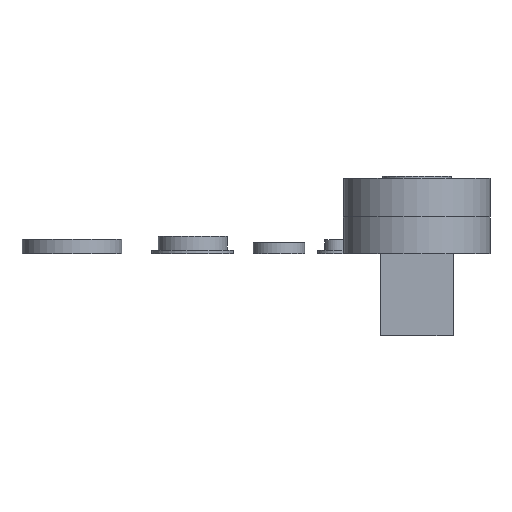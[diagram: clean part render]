
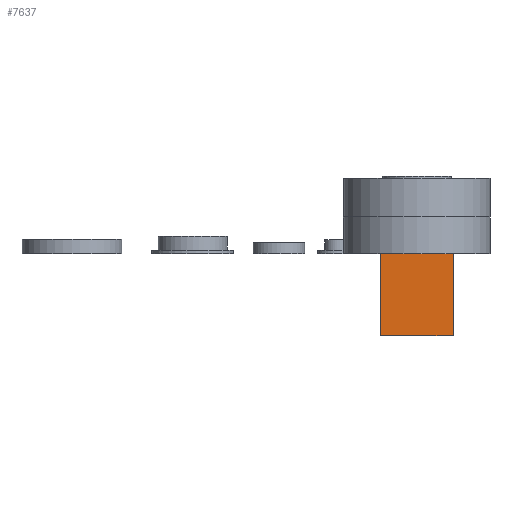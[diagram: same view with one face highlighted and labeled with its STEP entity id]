
A CAD part, left-side view. The second image highlights one B-rep face of the part: STEP entity #7637.
In plain terms, the highlighted planar face has unit normal (-1, 0, 0).
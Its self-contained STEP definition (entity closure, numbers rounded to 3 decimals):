
#445=PLANE('',#8384);
#732=FACE_OUTER_BOUND('',#1281,.T.);
#1281=EDGE_LOOP('',(#5271,#5272,#5273,#5274));
#1968=LINE('',#12121,#2454);
#1976=LINE('',#12136,#2462);
#1977=LINE('',#12138,#2463);
#1978=LINE('',#12139,#2464);
#2454=VECTOR('',#9473,10.);
#2462=VECTOR('',#9485,10.);
#2463=VECTOR('',#9488,10.);
#2464=VECTOR('',#9489,10.);
#3475=VERTEX_POINT('',#12118);
#3476=VERTEX_POINT('',#12120);
#3480=VERTEX_POINT('',#12132);
#3481=VERTEX_POINT('',#12134);
#4188=EDGE_CURVE('',#3475,#3476,#1968,.T.);
#4196=EDGE_CURVE('',#3480,#3481,#1976,.T.);
#4197=EDGE_CURVE('',#3475,#3480,#1977,.T.);
#4198=EDGE_CURVE('',#3476,#3481,#1978,.T.);
#5271=ORIENTED_EDGE('',*,*,#4197,.T.);
#5272=ORIENTED_EDGE('',*,*,#4196,.T.);
#5273=ORIENTED_EDGE('',*,*,#4198,.F.);
#5274=ORIENTED_EDGE('',*,*,#4188,.F.);
#7637=ADVANCED_FACE('',(#732),#445,.T.);
#8384=AXIS2_PLACEMENT_3D('',#12137,#9486,#9487);
#9473=DIRECTION('',(0.,0.,1.));
#9485=DIRECTION('',(0.,0.,1.));
#9486=DIRECTION('center_axis',(-1.,0.,0.));
#9487=DIRECTION('ref_axis',(0.,-1.,0.));
#9488=DIRECTION('',(0.,-1.,0.));
#9489=DIRECTION('',(0.,-1.,0.));
#12118=CARTESIAN_POINT('',(-21.155,21.155,-47.6));
#12120=CARTESIAN_POINT('',(-21.155,21.155,0.));
#12121=CARTESIAN_POINT('',(-21.155,21.155,-47.6));
#12132=CARTESIAN_POINT('',(-21.155,-21.155,-47.6));
#12134=CARTESIAN_POINT('',(-21.155,-21.155,0.));
#12136=CARTESIAN_POINT('',(-21.155,-21.155,-47.6));
#12137=CARTESIAN_POINT('Origin',(-21.155,21.155,-47.6));
#12138=CARTESIAN_POINT('',(-21.155,21.155,-47.6));
#12139=CARTESIAN_POINT('',(-21.155,21.155,0.));
